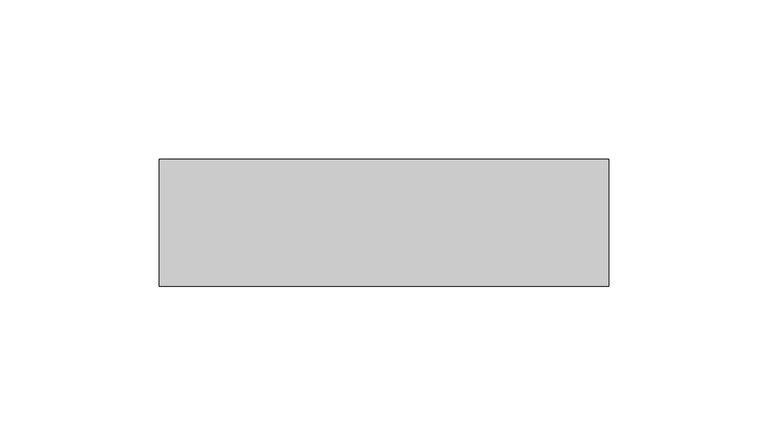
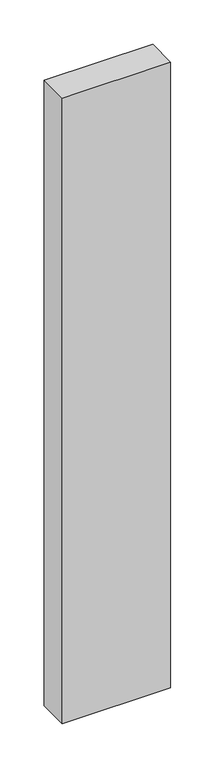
"""IFC4 building model written with IfcOpenShell, lengths in millimetres: plate geometry, Panneau système : Vitre 4cm."""

from ifc_helpers import new_model, si_unit, origin, origin_with_axes, place, context, project, spatial, polyline, outline, extrude, source, transform, mapped, element, save


def plate_53361240(model_context):
    return source(origin(), model_context, "Body", "SweptSolid", [
        extrude(outline(polyline([(70.7105561, -20.0), (-70.7105561, -20.0), (-70.7105561, 20.0), (70.7105561, 20.0), (70.7105561, -20.0)])), origin_with_axes(), (0.0, 0.0, 1.0), 860.0),
    ])


if __name__ == "__main__":
    model = new_model("IFC4")
    model_context = context("Model", 3, world=origin())
    ifc_project = project(units=[si_unit("LENGTHUNIT", "METRE", prefix="MILLI")], contexts=[model_context])
    site = spatial("IfcSite", under=ifc_project)
    building = spatial("IfcBuilding", under=site)
    placement = place(None, origin())
    plate_shape = plate_53361240(model_context)
    element("IfcPlate", 1, ObjectType="Panneau système : Vitre 4cm", at=placement, inside=building, context=model_context, shape_type="MappedRepresentation", body=[
        mapped(plate_shape, transform((0.0, 0.0, 0.0), x_axis=(1.0, 0.0, 0.0), y_axis=(0.0, 1.0, 0.0), z_axis=(0.0, 0.0, 1.0))),
    ])
    save(model, "model.ifc")
